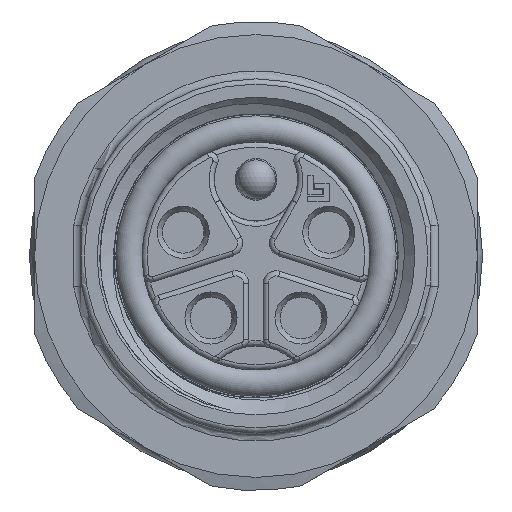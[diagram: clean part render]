
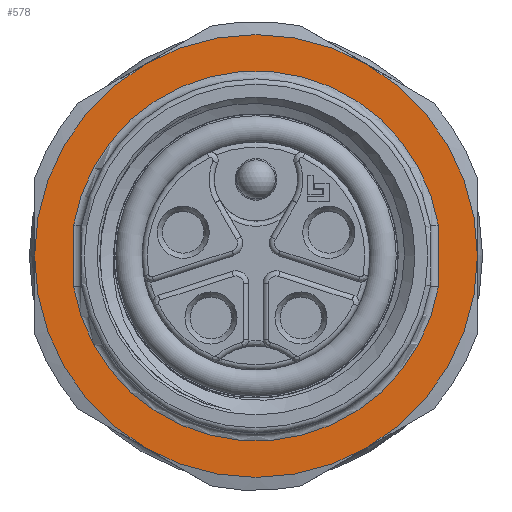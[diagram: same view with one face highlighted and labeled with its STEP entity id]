
A CAD part, left-side view. The second image highlights one B-rep face of the part: STEP entity #578.
In plain terms, the highlighted planar face has unit normal (-1, 0, 0).
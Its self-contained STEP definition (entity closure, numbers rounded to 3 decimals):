
#578=ADVANCED_FACE('',(#905,#906),#818,.F.);
#818=PLANE('',#4224);
#905=FACE_BOUND('',#1019,.T.);
#906=FACE_BOUND('',#1020,.T.);
#1019=EDGE_LOOP('',(#1379,#1380,#1381,#1382));
#1020=EDGE_LOOP('',(#1383,#1384,#1385,#1386,#1387,#1388));
#1379=ORIENTED_EDGE('',*,*,#2956,.T.);
#1380=ORIENTED_EDGE('',*,*,#2957,.T.);
#1381=ORIENTED_EDGE('',*,*,#2958,.T.);
#1382=ORIENTED_EDGE('',*,*,#2959,.T.);
#1383=ORIENTED_EDGE('',*,*,#2953,.T.);
#1384=ORIENTED_EDGE('',*,*,#2924,.T.);
#1385=ORIENTED_EDGE('',*,*,#2929,.T.);
#1386=ORIENTED_EDGE('',*,*,#2935,.T.);
#1387=ORIENTED_EDGE('',*,*,#2941,.T.);
#1388=ORIENTED_EDGE('',*,*,#2947,.T.);
#2525=VERTEX_POINT('',#5967);
#2526=VERTEX_POINT('',#5969);
#2529=VERTEX_POINT('',#5982);
#2532=VERTEX_POINT('',#5999);
#2535=VERTEX_POINT('',#6016);
#2538=VERTEX_POINT('',#6033);
#2541=VERTEX_POINT('',#6060);
#2542=VERTEX_POINT('',#6061);
#2543=VERTEX_POINT('',#6063);
#2544=VERTEX_POINT('',#6065);
#2924=EDGE_CURVE('',#2526,#2525,#3959,.T.);
#2929=EDGE_CURVE('',#2525,#2529,#3961,.T.);
#2935=EDGE_CURVE('',#2529,#2532,#3963,.T.);
#2941=EDGE_CURVE('',#2532,#2535,#3965,.T.);
#2947=EDGE_CURVE('',#2535,#2538,#3967,.T.);
#2953=EDGE_CURVE('',#2538,#2526,#3969,.T.);
#2956=EDGE_CURVE('',#2541,#2542,#3513,.T.);
#2957=EDGE_CURVE('',#2542,#2543,#3970,.T.);
#2958=EDGE_CURVE('',#2543,#2544,#3514,.T.);
#2959=EDGE_CURVE('',#2544,#2541,#3971,.T.);
#3513=LINE('',#6059,#3732);
#3514=LINE('',#6064,#3733);
#3732=VECTOR('',#4745,1.);
#3733=VECTOR('',#4748,1.);
#3959=CIRCLE('',#4200,8.5);
#3961=CIRCLE('',#4204,8.5);
#3963=CIRCLE('',#4208,8.5);
#3965=CIRCLE('',#4212,8.5);
#3967=CIRCLE('',#4216,8.5);
#3969=CIRCLE('',#4220,8.5);
#3970=CIRCLE('',#4222,7.1);
#3971=CIRCLE('',#4223,7.1);
#4200=AXIS2_PLACEMENT_3D('',#5968,#4691,#4692);
#4204=AXIS2_PLACEMENT_3D('',#5981,#4701,#4702);
#4208=AXIS2_PLACEMENT_3D('',#5998,#4711,#4712);
#4212=AXIS2_PLACEMENT_3D('',#6015,#4721,#4722);
#4216=AXIS2_PLACEMENT_3D('',#6032,#4731,#4732);
#4220=AXIS2_PLACEMENT_3D('',#6049,#4741,#4742);
#4222=AXIS2_PLACEMENT_3D('',#6062,#4746,#4747);
#4223=AXIS2_PLACEMENT_3D('',#6066,#4749,#4750);
#4224=AXIS2_PLACEMENT_3D('',#6067,#4751,#4752);
#4691=DIRECTION('',(-1.,0.,0.));
#4692=DIRECTION('',(0.,-1.,0.));
#4701=DIRECTION('',(-1.,0.,0.));
#4702=DIRECTION('',(0.,-1.,0.));
#4711=DIRECTION('',(-1.,0.,0.));
#4712=DIRECTION('',(0.,-1.,0.));
#4721=DIRECTION('',(-1.,0.,0.));
#4722=DIRECTION('',(0.,-1.,0.));
#4731=DIRECTION('',(-1.,0.,0.));
#4732=DIRECTION('',(0.,-1.,0.));
#4741=DIRECTION('',(-1.,0.,0.));
#4742=DIRECTION('',(0.,-1.,0.));
#4745=DIRECTION('',(0.,0.,1.));
#4746=DIRECTION('',(1.,0.,0.));
#4747=DIRECTION('',(0.,1.,0.));
#4748=DIRECTION('',(0.,0.,-1.));
#4749=DIRECTION('',(1.,0.,0.));
#4750=DIRECTION('',(0.,1.,0.));
#4751=DIRECTION('',(1.,0.,0.));
#4752=DIRECTION('',(0.,1.,0.));
#5967=CARTESIAN_POINT('',(9.5,4.25,-7.361));
#5968=CARTESIAN_POINT('',(9.5,0.,0.));
#5969=CARTESIAN_POINT('',(9.5,8.5,0.));
#5981=CARTESIAN_POINT('',(9.5,0.,0.));
#5982=CARTESIAN_POINT('',(9.5,-4.25,-7.361));
#5998=CARTESIAN_POINT('',(9.5,0.,0.));
#5999=CARTESIAN_POINT('',(9.5,-8.5,0.));
#6015=CARTESIAN_POINT('',(9.5,0.,0.));
#6016=CARTESIAN_POINT('',(9.5,-4.25,7.361));
#6032=CARTESIAN_POINT('',(9.5,0.,0.));
#6033=CARTESIAN_POINT('',(9.5,4.25,7.361));
#6049=CARTESIAN_POINT('',(9.5,0.,0.));
#6059=CARTESIAN_POINT('',(9.5,7.,1.162));
#6060=CARTESIAN_POINT('',(9.5,7.,-1.187));
#6061=CARTESIAN_POINT('',(9.5,7.,1.187));
#6062=CARTESIAN_POINT('',(9.5,0.,0.));
#6063=CARTESIAN_POINT('',(9.5,-7.,1.187));
#6064=CARTESIAN_POINT('',(9.5,-7.,-1.162));
#6065=CARTESIAN_POINT('',(9.5,-7.,-1.187));
#6066=CARTESIAN_POINT('',(9.5,0.,0.));
#6067=CARTESIAN_POINT('',(9.5,0.,8.5));
